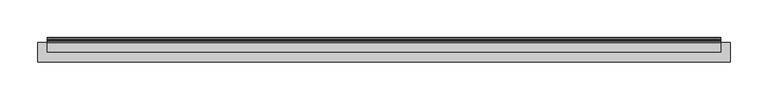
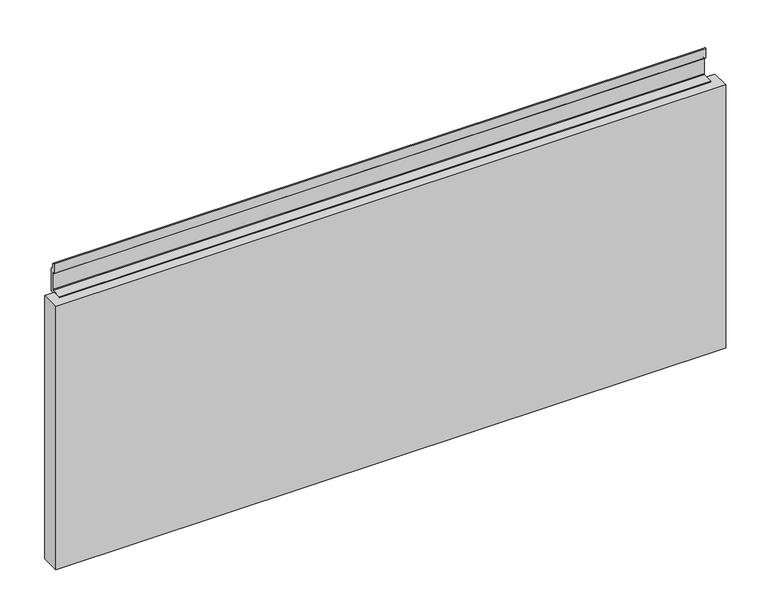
"""IFC4 building model written with IfcOpenShell, lengths in millimetres: furniture geometry, Geiger_GeigerOneCasegoods_WallTileAcceptsTileAboveFabric : Fabric 36Wx 1.25Dx 15H."""

from ifc_helpers import new_model, si_unit, point, frame, frame_2d, origin, origin_with_axes, place, context, project, spatial, polyline, circle_curve, trimmed, segment, composite_curve, outline, extrude, source, transform, mapped, element, save


def furniture_cdfc1ff7(model_context):
    return source(origin(), model_context, "Body", "SweptSolid", [
        extrude(outline(composite_curve([segment(polyline([(-3.5052, 46.3366), (-2.6924, 45.5238), (-0.8128, 45.5238), (0.0, 44.7364), (0.0, 31.3197095)]), True, "CONTINUOUS"), segment(trimmed(circle_curve(frame_2d((-0.7973236, 31.3197095)), 0.7973236), [point((0.0, 31.3197095))], [point((-1.3611166, 30.7559166))], False, "CARTESIAN"), True, "CONTINUOUS"), segment(polyline([(-1.3611166, 30.7559166), (-2.8956, 32.2904), (-2.8956, 39.2246), (-3.7084, 40.012), (-5.6134, 40.012), (-6.4008, 40.8248), (-6.4008, 72.524), (-5.1054, 72.524), (-3.5052, 70.9238), (-3.5052, 46.3366)]), True, "CONTINUOUS")], self_intersect=False)), frame((50.0016, 0.0, 0.0), z_axis=(1.0, 0.0, 0.0), x_axis=(0.0, 1.0, 0.0)), (0.0, 0.0, 1.0), 75.9968),
        extrude(outline(polyline([(914.4, -6.4008), (914.4, -32.4008), (0.0, -32.4008), (0.0, -6.4008), (914.4, -6.4008)])), origin_with_axes(), (0.0, 0.0, 1.0), 380.0),
        extrude(outline(composite_curve([segment(polyline([(-3.5052, 46.3366), (-2.6924, 45.5238), (-0.8128, 45.5238), (0.0, 44.7364), (0.0, 31.3197095)]), True, "CONTINUOUS"), segment(trimmed(circle_curve(frame_2d((-0.7973236, 31.3197095)), 0.7973236), [point((0.0, 31.3197095))], [point((-1.3611166, 30.7559166))], False, "CARTESIAN"), True, "CONTINUOUS"), segment(polyline([(-1.3611166, 30.7559166), (-2.8956, 32.2904), (-2.8956, 39.2246), (-3.7084, 40.012), (-5.6134, 40.012), (-6.4008, 40.8248), (-6.4008, 72.524), (-5.1054, 72.524), (-3.5052, 70.9238), (-3.5052, 46.3366)]), True, "CONTINUOUS")], self_intersect=False)), frame((788.4, 0.0, 0.0), z_axis=(1.0, 0.0, 0.0), x_axis=(0.0, 1.0, 0.0)), (0.0, 0.0, 1.0), 76.0),
        extrude(outline(composite_curve([segment(polyline([(-3.5052, 420.2336), (-3.5052, 413.2994), (-2.7178, 412.512), (-0.8128, 412.512), (0.0, 411.6992), (0.0, 378.3998), (-2.6924, 378.3998), (-3.5052, 377.6124), (-3.5052, 363.8964), (-2.6924, 363.109), (0.0, 363.109), (0.0, 360.188), (-5.6134, 360.188), (-6.4008, 361.0008), (-6.4008, 380.0), (-18.9992, 380.0), (-18.9992, 381.6002), (-3.7084, 381.6002), (-2.8956, 382.3876), (-2.8956, 406.2128), (-3.7084, 407.0002), (-5.6134, 407.0002), (-6.4008, 407.813), (-6.4008, 421.2057925)]), True, "CONTINUOUS"), segment(trimmed(circle_curve(frame_2d((-5.6040985, 421.2057925)), 0.7967015), [point((-6.4008, 421.2057925))], [point((-5.0407455, 421.7691455))], False, "CARTESIAN"), True, "CONTINUOUS"), segment(polyline([(-5.0407455, 421.7691455), (-3.5052, 420.2336)]), True, "CONTINUOUS")], self_intersect=False)), frame((12.5, 0.0, 0.0), z_axis=(1.0, 0.0, 0.0), x_axis=(0.0, 1.0, 0.0)), (0.0, 0.0, 1.0), 889.4),
    ])


if __name__ == "__main__":
    model = new_model("IFC4")
    model_context = context("Model", 3, world=origin())
    ifc_project = project(units=[si_unit("LENGTHUNIT", "METRE", prefix="MILLI")], contexts=[model_context])
    site = spatial("IfcSite", under=ifc_project)
    building = spatial("IfcBuilding", under=site)
    placement = place(None, origin())
    furniture_shape = furniture_cdfc1ff7(model_context)
    element("IfcFurniture", 1, ObjectType="Geiger_GeigerOneCasegoods_WallTileAcceptsTileAboveFabric : Fabric 36Wx 1.25Dx 15H", at=placement, inside=building, context=model_context, shape_type="MappedRepresentation", body=[
        mapped(furniture_shape, transform((0.0, 0.0, 0.0), x_axis=(1.0, 0.0, 0.0), y_axis=(0.0, 1.0, 0.0), z_axis=(0.0, 0.0, 1.0))),
    ])
    save(model, "model.ifc")
